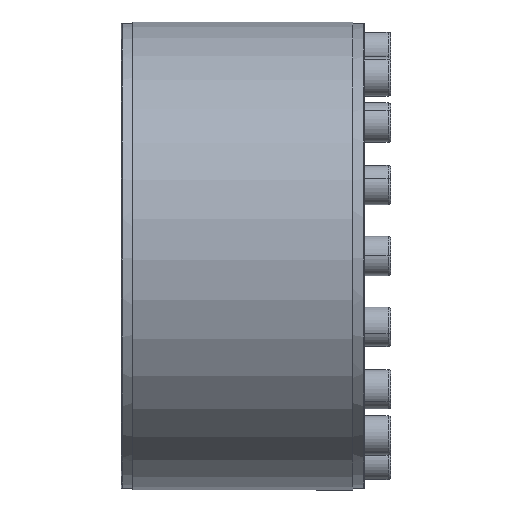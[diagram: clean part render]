
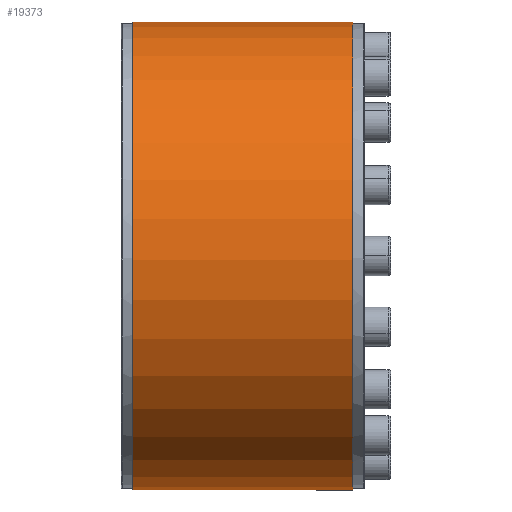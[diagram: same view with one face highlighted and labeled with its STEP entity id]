
A CAD part, front view. The second image highlights one B-rep face of the part: STEP entity #19373.
In plain terms, the highlighted cylindrical face has radius 142.5 mm (diameter 285 mm), a partial arc.
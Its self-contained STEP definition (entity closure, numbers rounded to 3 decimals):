
#18342=CARTESIAN_POINT('',(-67.,0.,0.));
#18343=DIRECTION('',(-1.,0.,0.));
#18344=DIRECTION('',(0.,0.985,-0.174));
#18345=AXIS2_PLACEMENT_3D('',#18342,#18343,#18344);
#18350=DIRECTION('',(1.,0.,0.));
#18351=VECTOR('',#18350,134.);
#18352=CARTESIAN_POINT('',(-67.,141.113,-19.832));
#18353=LINE('',#18352,#18351);
#18357=CARTESIAN_POINT('',(67.,0.,0.));
#18358=DIRECTION('',(1.,0.,0.));
#18359=DIRECTION('',(0.,0.99,-0.139));
#18360=AXIS2_PLACEMENT_3D('',#18357,#18358,#18359);
#18365=DIRECTION('',(1.,0.,0.));
#18366=VECTOR('',#18365,134.);
#18367=CARTESIAN_POINT('',(-67.,140.335,-24.745));
#18368=LINE('',#18367,#18366);
#19049=CARTESIAN_POINT('',(-67.,140.335,-24.745));
#19051=VERTEX_POINT('',#19049);
#19053=CARTESIAN_POINT('',(-67.,141.113,-19.832));
#19055=VERTEX_POINT('',#19053);
#19073=CARTESIAN_POINT('',(67.,140.335,-24.745));
#19075=VERTEX_POINT('',#19073);
#19077=CARTESIAN_POINT('',(67.,141.113,-19.832));
#19079=VERTEX_POINT('',#19077);
#19360=CARTESIAN_POINT('',(-73.7,0.,0.));
#19361=DIRECTION('',(1.,0.,0.));
#19362=DIRECTION('',(0.,-1.,0.));
#19363=AXIS2_PLACEMENT_3D('',#19360,#19361,#19362);
#19364=CYLINDRICAL_SURFACE('',#19363,142.5);
#19366=ORIENTED_EDGE('',*,*,#19365,.T.);
#19368=ORIENTED_EDGE('',*,*,#19367,.T.);
#19369=ORIENTED_EDGE('',*,*,#19352,.T.);
#19370=ORIENTED_EDGE('',*,*,#19324,.F.);
#19371=EDGE_LOOP('',(#19366,#19368,#19369,#19370));
#19372=FACE_OUTER_BOUND('',#19371,.F.);
#19373=ADVANCED_FACE('',(#19372),#19364,.T.);
#18346=CIRCLE('',#18345,142.5);
#18361=CIRCLE('',#18360,142.5);
#19324=EDGE_CURVE('',#19051,#19075,#18368,.T.);
#19352=EDGE_CURVE('',#19079,#19075,#18361,.T.);
#19365=EDGE_CURVE('',#19051,#19055,#18346,.T.);
#19367=EDGE_CURVE('',#19055,#19079,#18353,.T.);
